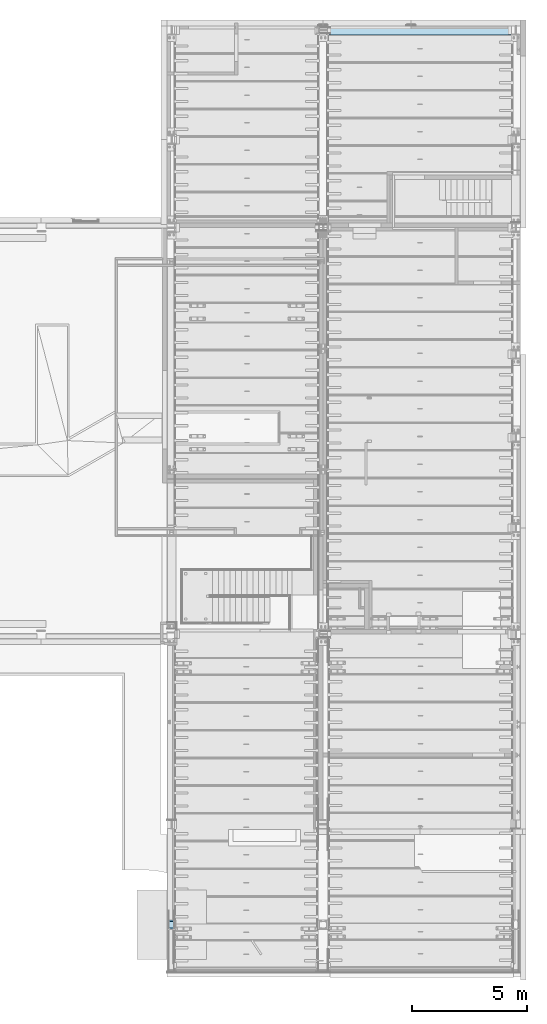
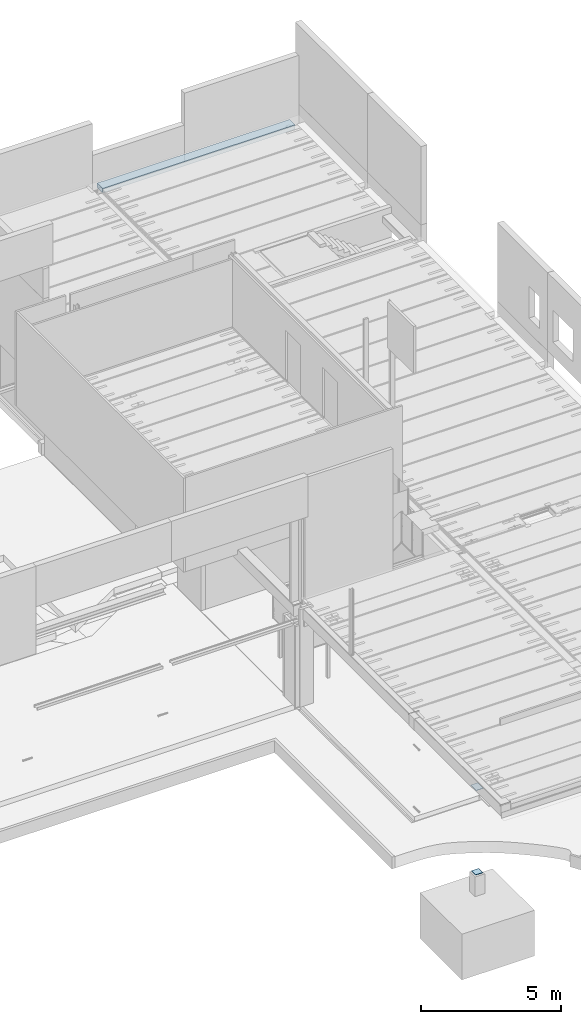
# One storey, part 65 of 230: 2 plates, 1 slab.
"""IFC4X3_ADD2 building model written with IfcOpenShell, lengths in millimetres."""

from ifc_helpers import new_model, si_unit, direction, frame, frame_2d, origin_with_axes, place, context, subcontext, project, spatial, rectangle, extrude, material, type_object, element, save


model = new_model("IFC4X3_ADD2")

# Units and contexts
model_context = context("Model", 3, precision=1e-05, world=origin_with_axes(), true_north=direction((0.0, 1.0)))
body_context = subcontext(model_context, "Body", "Model", "MODEL_VIEW")
ifc_project = project(units=[si_unit("LENGTHUNIT", "METRE", prefix="MILLI"), si_unit("AREAUNIT", "SQUARE_METRE"), si_unit("VOLUMEUNIT", "CUBIC_METRE"), si_unit("PLANEANGLEUNIT", "RADIAN"), si_unit("TIMEUNIT", "SECOND"), si_unit("MASSUNIT", "GRAM")], contexts=[model_context])

# Site, building, storey
site_placement = place(None, origin_with_axes())
site = spatial("IfcSite", under=ifc_project, at=site_placement, Name="Site", CompositionType="ELEMENT")
building_placement = place(site_placement, origin_with_axes())
building = spatial("IfcBuilding", under=site, at=building_placement, Name="IFC Building Story")
storey_placement = place(building_placement, origin_with_axes())
storey = spatial("IfcBuildingStorey", under=building, at=storey_placement, Name="ETAGE 00 (0)", Elevation=0.0)

# Slab
ifc_material_1 = material(Name="BS_28_Ossature en béton armé - Eléments coulé sur place")
slab_type = type_object("IfcSlabType", Name="Sol:BS_23_FL_BTremplissage chape de compression", PredefinedType="FLOOR", material=ifc_material_1)
slab_placement = place(storey_placement, frame((40161.18872070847, 26160.0006103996, 4000.0), z_axis=(0.0, 0.0, 1.0), x_axis=(1.0, 0.0, 0.0)))
element("IfcSlab", 1, at=slab_placement, inside=storey, type_object=slab_type, Name="Sol:BS_23_FL_BTremplissage chape de compression:18", ObjectType="Sol:BS_23_FL_BTremplissage chape de compression", PredefinedType="FLOOR", context=body_context, shape_type="SweptSolid", body=[
    extrude(rectangle(XDim=7955.000152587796, YDim=390.0, at=frame_2d((0.0, 5.95523630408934e-12), x_axis=(1.0, 0.0))), frame((3977.500076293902, 195.0, 0.0), z_axis=(0.0, 0.0, 1.0), x_axis=(1.0, 0.0, 0.0)), (0.0, 0.0, 1.0), 200.0),
])

# Plates
ifc_material_2 = material(Name="Acier - B 500 B")
plate_1_placement = place(storey_placement, frame((33246.689348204, -12538.486405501, 40.0), z_axis=(0.0, 0.0, 1.0), x_axis=(1.0, 0.0, 0.0)))
element("IfcPlate", 2, at=plate_1_placement, inside=storey, material=ifc_material_2, Name="-", ObjectType="Aucun", context=body_context, shape_type="SweptSolid", body=[
    extrude(rectangle(XDim=300.0, YDim=300.0, at=frame_2d((0.0, 5.95523630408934e-12), x_axis=(1.0, 0.0))), frame((150.0, 150.0, 0.0), z_axis=(0.0, 0.0, 1.0), x_axis=(1.0, 0.0, 0.0)), (0.0, 0.0, 1.0), 15.0),
])
plate_2_placement = place(storey_placement, frame((33246.689348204, -12188.486405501, 3765.0), z_axis=(0.0, 0.0, 1.0), x_axis=(0.0, -1.0, 0.0)))
element("IfcPlate", 3, at=plate_2_placement, inside=storey, material=ifc_material_2, Name="-", ObjectType="Aucun", context=body_context, shape_type="SweptSolid", body=[
    extrude(rectangle(XDim=400.0, YDim=300.0, at=frame_2d((0.0, 5.95523630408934e-12), x_axis=(-1.0, 0.0))), frame((200.0, 150.0, 0.0), z_axis=(0.0, 0.0, 1.0), x_axis=(1.0, 0.0, 0.0)), (0.0, 0.0, 1.0), 15.0),
])

save(model, "model.ifc")
